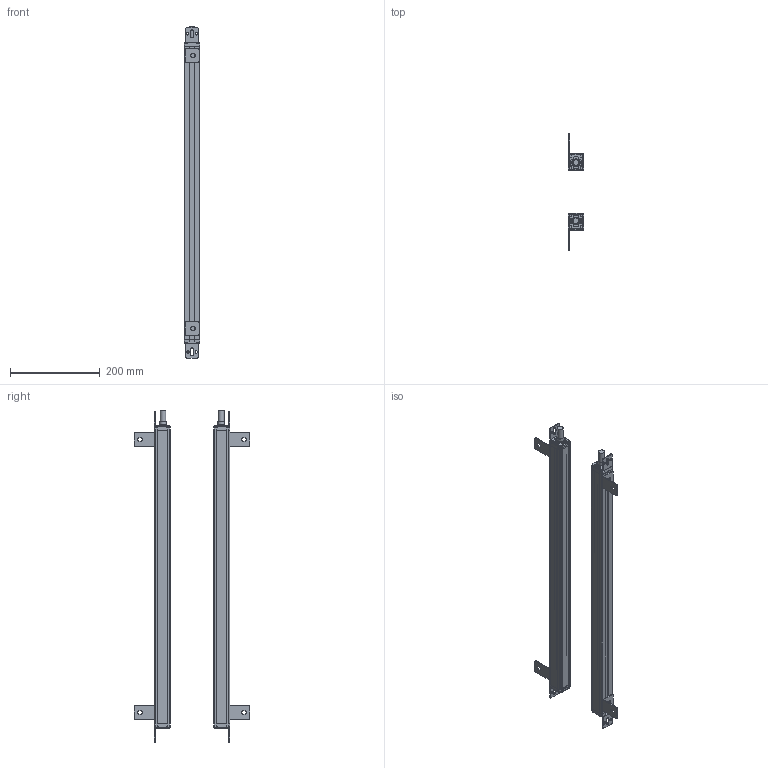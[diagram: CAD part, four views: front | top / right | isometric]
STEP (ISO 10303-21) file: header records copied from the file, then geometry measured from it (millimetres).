
FILE_DESCRIPTION(/* description */ (''),/* implementation_level */ '2;1');
FILE_NAME(/* name */ '1640_35X35.stp',/* time_stamp */ '2023-09-18T15:53:26+08:00',/* author */ (''),/* organization */ (''),/* preprocessor_version */ 'ST-DEVELOPER v16.7',/* originating_system */ 'SIEMENS PLM Software NX 12.0',/* authorisation */ '');
FILE_SCHEMA (('AP203_CONFIGURATION_CONTROLLED_3D_DESIGN_OF_MECHANICAL_PARTS_AND_ASSEMBLIES_MIM_LF { 1 0 10303 403 2 1 2}'));
Length unit declared in the file: millimetre
Products named in the file (1): 1640_35X35_stp
Bounding box: 35.41 x 258.01 x 741.6 mm (x, y, z)
Volume: 676277 mm3; surface area: 513766.5 mm2
Topology: 28 solids, 28 shells, 1182 faces, 3360 edges, 2260 vertices
Faces by surface type: plane 658, cylinder 464, cone 60
Full cylindrical faces by diameter (mm): 3.2 x8, 6 x24, 13 x2, 14.4 x2, 15 x2
Entity records: 39055 total; most frequent: DIRECTION 6832, CARTESIAN_POINT 6745, ORIENTED_EDGE 6612, EDGE_CURVE 3306, AXIS2_PLACEMENT_3D 2347, VERTEX_POINT 2244, LINE 2138, VECTOR 2138
